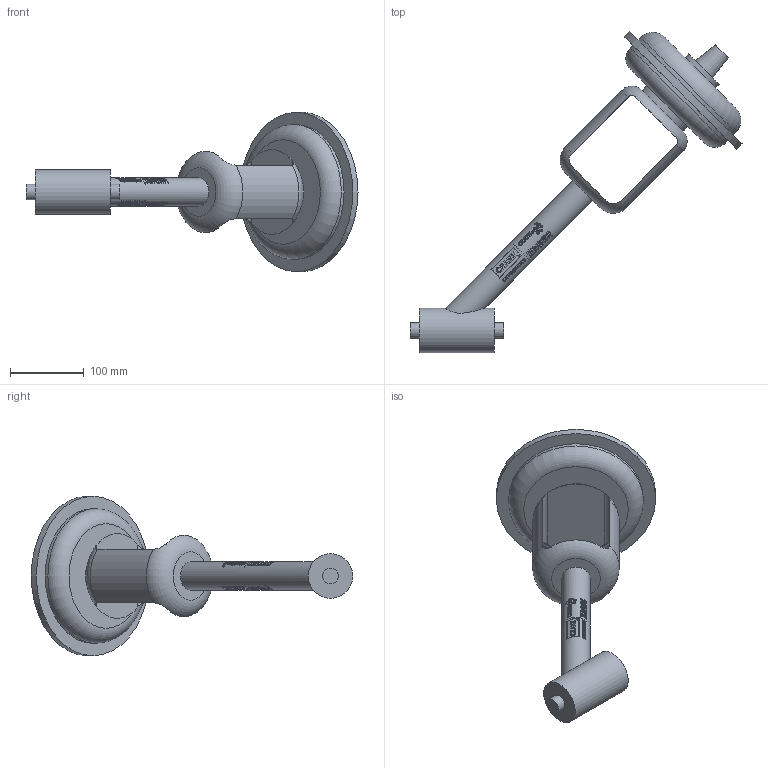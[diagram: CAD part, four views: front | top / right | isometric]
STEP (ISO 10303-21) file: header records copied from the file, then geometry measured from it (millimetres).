
FILE_DESCRIPTION (( 'STEP AP203' ), '1' );
FILE_NAME ('0.5in Y-Pattern Pneumatic TF Valve.step', '2025-12-17T20:08:00', ( '' ), ( '' ), 'SwSTEP 2.0', 'SolidWorks 2023', '' );
FILE_SCHEMA (( 'CONFIG_CONTROL_DESIGN' ));
Length unit declared in the file: inch
Products named in the file (1): 0.5in Y-Pattern Pneumatic TF Valve
Bounding box: 449.63 x 435.34 x 215.9 mm (x, y, z)
Volume: 2663201.9 mm3; surface area: 234250.5 mm2
Topology: 1 solids, 1 shells, 1175 faces, 2996 edges, 1994 vertices
Faces by surface type: plane 751, cylinder 313, bspline 106, torus 4, cone 1
Full cylindrical faces by diameter (mm): 0.597 x2, 0.654 x2, 0.711 x2, 0.816 x2, 0.921 x2, 1.187 x2, 1.228 x2, 1.363 x2, 1.453 x2, 1.523 x2, 1.604 x2, 1.829 x2, 2.471 x2, 3.052 x2, 3.693 x2, 4.3 x2, 21.336 x2, 38.1 x1, 58.444 x1, 60.325 x1, 78.516 x1, 182.292 x2, 215.9 x1
Entity records: 47663 total; most frequent: CARTESIAN_POINT 21847, ORIENTED_EDGE 5862, DIRECTION 4408, EDGE_CURVE 2931, VERTEX_POINT 1991, VECTOR 1544, LINE 1544, AXIS2_PLACEMENT_3D 1432
